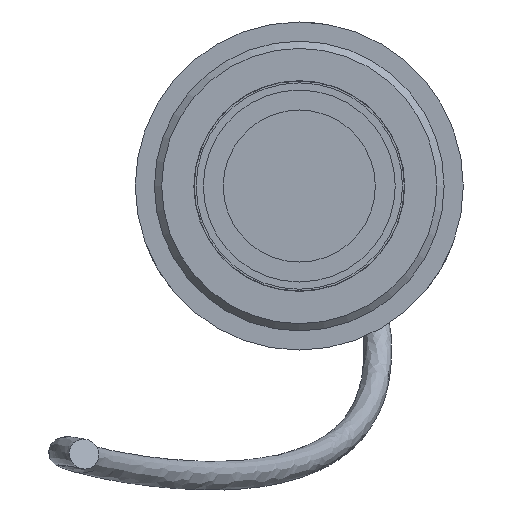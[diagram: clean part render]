
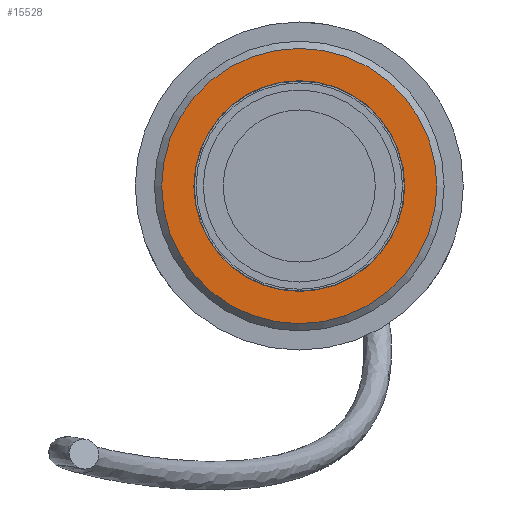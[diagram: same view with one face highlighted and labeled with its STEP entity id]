
A CAD part, front view. The second image highlights one B-rep face of the part: STEP entity #15528.
In plain terms, the highlighted planar face has unit normal (0, -1, 0).
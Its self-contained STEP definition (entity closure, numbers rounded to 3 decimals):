
#302=FACE_BOUND('',#2096,.T.);
#648=PLANE('',#16771);
#1204=FACE_OUTER_BOUND('',#2095,.T.);
#2095=EDGE_LOOP('',(#10795));
#2096=EDGE_LOOP('',(#10796,#10797));
#3067=CIRCLE('',#16770,19.);
#3068=CIRCLE('',#16772,14.55);
#3069=CIRCLE('',#16773,14.55);
#6824=VERTEX_POINT('',#23384);
#6825=VERTEX_POINT('',#23388);
#6826=VERTEX_POINT('',#23389);
#8387=EDGE_CURVE('',#6824,#6824,#3067,.T.);
#8388=EDGE_CURVE('',#6825,#6826,#3068,.T.);
#8389=EDGE_CURVE('',#6826,#6825,#3069,.T.);
#10795=ORIENTED_EDGE('',*,*,#8387,.F.);
#10796=ORIENTED_EDGE('',*,*,#8388,.T.);
#10797=ORIENTED_EDGE('',*,*,#8389,.T.);
#15528=ADVANCED_FACE('',(#1204,#302),#648,.T.);
#16770=AXIS2_PLACEMENT_3D('',#23386,#18478,#18479);
#16771=AXIS2_PLACEMENT_3D('',#23387,#18480,#18481);
#16772=AXIS2_PLACEMENT_3D('',#23390,#18482,#18483);
#16773=AXIS2_PLACEMENT_3D('',#23391,#18484,#18485);
#18478=DIRECTION('center_axis',(0.,1.,0.));
#18479=DIRECTION('ref_axis',(1.,0.,0.));
#18480=DIRECTION('center_axis',(0.,-1.,0.));
#18481=DIRECTION('ref_axis',(0.,0.,-1.));
#18482=DIRECTION('center_axis',(0.,1.,0.));
#18483=DIRECTION('ref_axis',(1.,0.,0.));
#18484=DIRECTION('center_axis',(0.,1.,0.));
#18485=DIRECTION('ref_axis',(1.,0.,0.));
#23384=CARTESIAN_POINT('',(-4.898,-46.,0.));
#23386=CARTESIAN_POINT('Origin',(14.102,-46.,0.));
#23387=CARTESIAN_POINT('Origin',(-5.898,-46.,0.));
#23388=CARTESIAN_POINT('',(-0.448,-46.,0.));
#23389=CARTESIAN_POINT('',(28.652,-46.,0.));
#23390=CARTESIAN_POINT('Origin',(14.102,-46.,0.));
#23391=CARTESIAN_POINT('Origin',(14.102,-46.,0.));
